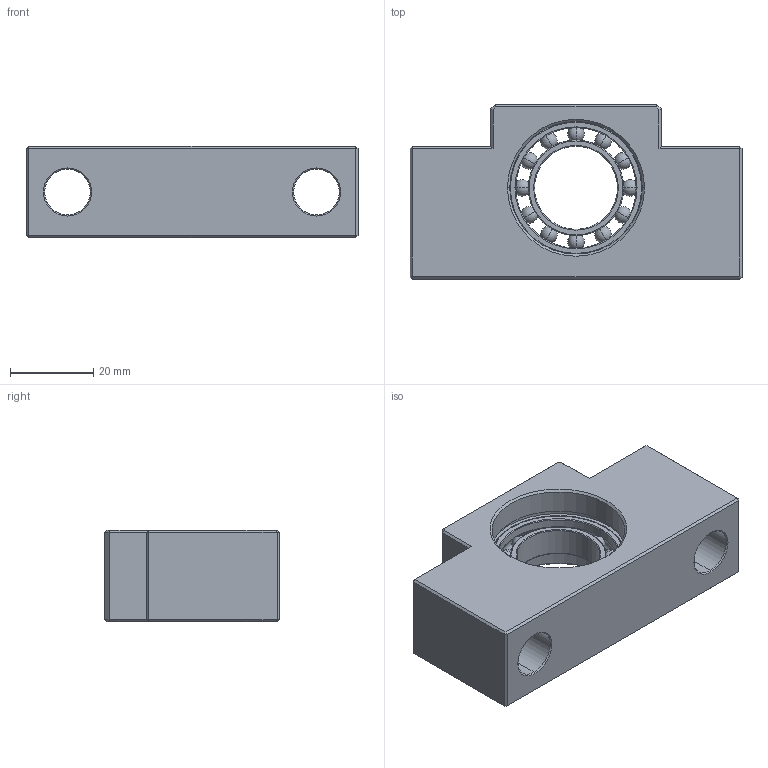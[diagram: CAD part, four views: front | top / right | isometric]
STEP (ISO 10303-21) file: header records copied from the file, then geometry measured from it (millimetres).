
FILE_DESCRIPTION (( 'STEP AP203' ), '1' );
FILE_NAME ('LFA20.STEP', '2014-05-08T08:01:56', ( '' ), ( '' ), 'SwSTEP 2.0', 'SolidWorks 2014', '' );
FILE_SCHEMA (( 'CONFIG_CONTROL_DESIGN' ));
Length unit declared in the file: millimetre
Products named in the file (1): LFA20
Bounding box: 80 x 42 x 22 mm (x, y, z)
Volume: 39734.1 mm3; surface area: 17677 mm2
Topology: 15 solids, 15 shells, 142 faces, 336 edges, 206 vertices
Faces by surface type: plane 54, cylinder 30, sphere 24, torus 22, cone 12
Entity records: 3689 total; most frequent: DIRECTION 698, CARTESIAN_POINT 589, ORIENTED_EDGE 552, AXIS2_PLACEMENT_3D 279, EDGE_CURVE 276, VERTEX_POINT 170, EDGE_LOOP 158, ADVANCED_FACE 142
